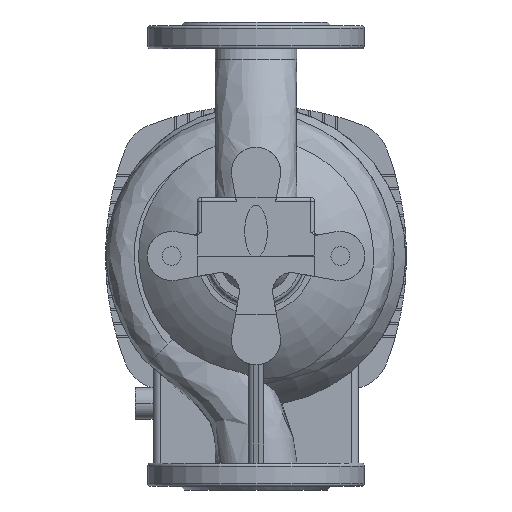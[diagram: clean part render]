
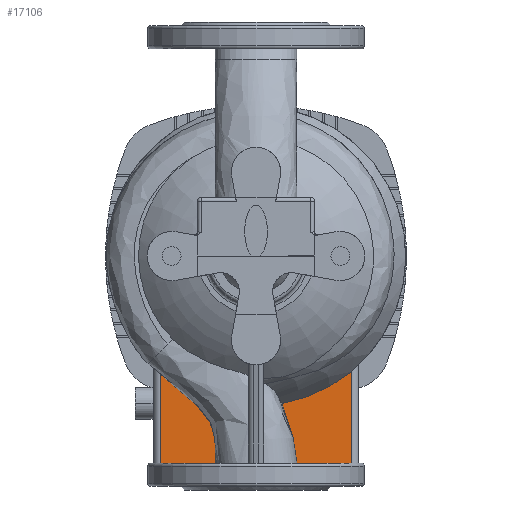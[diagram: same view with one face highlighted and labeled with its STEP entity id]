
A CAD part, front view. The second image highlights one B-rep face of the part: STEP entity #17106.
In plain terms, the highlighted planar face has unit normal (0, -1, 0) as drawn and (0, 0, 1) by its records, which use the part's own axes.
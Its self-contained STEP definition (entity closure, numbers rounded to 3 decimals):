
#206 = VERTEX_POINT ( 'NONE', #24269 ) ;
#849 = EDGE_CURVE ( 'NONE', #14550, #26979, #17823, .T. ) ;
#1740 = CARTESIAN_POINT ( 'NONE',  ( 0., -423., -140.5 ) ) ;
#2688 = CIRCLE ( 'NONE', #18243, 109.5 ) ;
#3234 = LINE ( 'NONE', #19798, #16688 ) ;
#3822 = AXIS2_PLACEMENT_3D ( 'NONE', #20759, #16578, #24673 ) ;
#5736 = PLANE ( 'NONE',  #3822 ) ;
#6321 = DIRECTION ( 'NONE',  ( 0., 0., 1. ) ) ;
#7821 = FACE_OUTER_BOUND ( 'NONE', #18024, .T. ) ;
#11492 = CARTESIAN_POINT ( 'NONE',  ( -82., 178.436, -140.5 ) ) ;
#12329 = DIRECTION ( 'NONE',  ( 1., 0., 0. ) ) ;
#13650 = CARTESIAN_POINT ( 'NONE',  ( -82., 128.5, -140.5 ) ) ;
#13677 = CARTESIAN_POINT ( 'NONE',  ( 82., 178.436, -140.5 ) ) ;
#14518 = CIRCLE ( 'NONE', #19404, 607. ) ;
#14550 = VERTEX_POINT ( 'NONE', #11492 ) ;
#16578 = DIRECTION ( 'NONE',  ( 0., 0., 1. ) ) ;
#16688 = VECTOR ( 'NONE', #20210, 1000. ) ;
#16748 = ORIENTED_EDGE ( 'NONE', *, *, #16930, .T. ) ;
#16930 = EDGE_CURVE ( 'NONE', #206, #23464, #3234, .T. ) ;
#17106 = ADVANCED_FACE ( 'NONE', ( #7821 ), #5736, .T. ) ;
#17746 = ORIENTED_EDGE ( 'NONE', *, *, #27210, .T. ) ;
#17823 = LINE ( 'NONE', #13650, #27092 ) ;
#18024 = EDGE_LOOP ( 'NONE', ( #20514, #16748, #17746, #26731 ) ) ;
#18243 = AXIS2_PLACEMENT_3D ( 'NONE', #21229, #25283, #12329 ) ;
#18565 = DIRECTION ( 'NONE',  ( 0., -1., 0. ) ) ;
#19404 = AXIS2_PLACEMENT_3D ( 'NONE', #1740, #6321, #18565 ) ;
#19798 = CARTESIAN_POINT ( 'NONE',  ( 82., 128.5, -140.5 ) ) ;
#19833 = CARTESIAN_POINT ( 'NONE',  ( -82., 72.569, -140.5 ) ) ;
#20210 = DIRECTION ( 'NONE',  ( 0., 1., 0. ) ) ;
#20514 = ORIENTED_EDGE ( 'NONE', *, *, #25592, .T. ) ;
#20759 = CARTESIAN_POINT ( 'NONE',  ( 68., 128.5, -140.5 ) ) ;
#21229 = CARTESIAN_POINT ( 'NONE',  ( 0., 0., -140.5 ) ) ;
#22151 = DIRECTION ( 'NONE',  ( 0., -1., 0. ) ) ;
#23464 = VERTEX_POINT ( 'NONE', #13677 ) ;
#24269 = CARTESIAN_POINT ( 'NONE',  ( 82., 72.569, -140.5 ) ) ;
#24673 = DIRECTION ( 'NONE',  ( 0., -1., 0. ) ) ;
#25283 = DIRECTION ( 'NONE',  ( 0., 0., -1. ) ) ;
#25592 = EDGE_CURVE ( 'NONE', #26979, #206, #2688, .T. ) ;
#26731 = ORIENTED_EDGE ( 'NONE', *, *, #849, .T. ) ;
#26979 = VERTEX_POINT ( 'NONE', #19833 ) ;
#27092 = VECTOR ( 'NONE', #22151, 1000. ) ;
#27210 = EDGE_CURVE ( 'NONE', #23464, #14550, #14518, .T. ) ;
